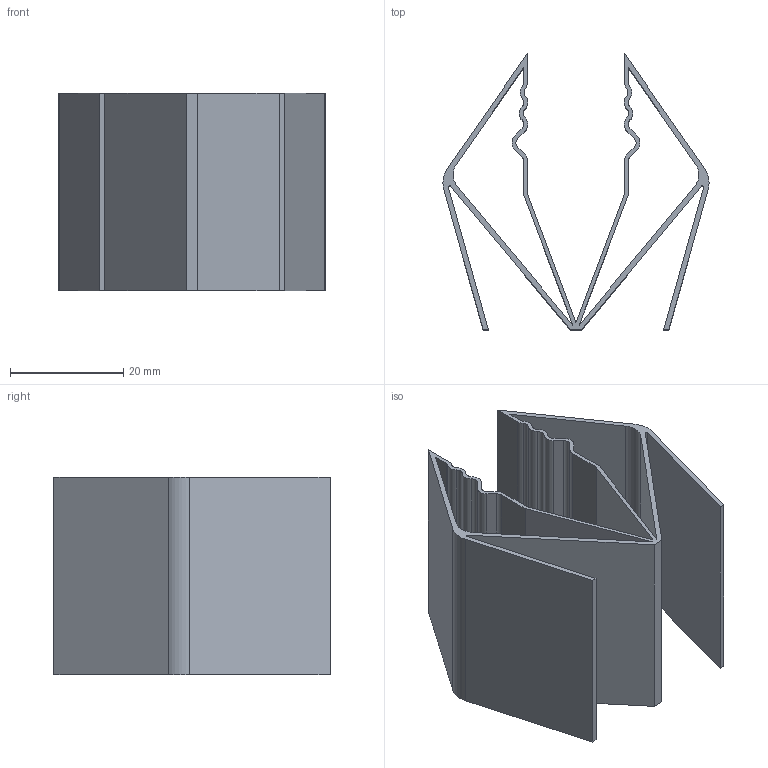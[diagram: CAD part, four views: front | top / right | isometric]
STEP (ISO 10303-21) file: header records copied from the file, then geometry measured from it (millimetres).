
FILE_DESCRIPTION(/* description */ ('STEP AP242 Edition 2','CAx-IF Rec.Pracs.---Representation and Presentation of Product Manufacturing Information (PMI)---4.0---2014-10-13','CAx-IF Rec.Pracs.---3D Tessellated Geometry---0.4---2014-09-14','2;1','CAx-IF Rec.Pracs.---User Defined Attributes---1.5---2016-08-15'),/* implementation_level */ '2;1');
FILE_NAME(/* name */ 'Assembly 1 - Gripper',/* time_stamp */ '2026-08-25T12:50:00Z',/* author */ (''),/* organization */ (''),/* preprocessor_version */ 'ST-DEVELOPER v20',/* originating_system */ 'ONSHAPE BY PTC INC, 1.219',/* authorisation */ ' ');
FILE_SCHEMA (('AP242_MANAGED_MODEL_BASED_3D_ENGINEERING_MIM_LF { 1 0 10303 442 3 1 4 }'));
Length unit declared in the file: metre
Products named in the file (1): Gripper
Bounding box: 47.09 x 48.84 x 35 mm (x, y, z)
Volume: 7837.9 mm3; surface area: 19608.7 mm2
Topology: 1 solids, 1 shells, 73 faces, 213 edges, 142 vertices
Faces by surface type: plane 39, cylinder 34
Entity records: 2465 total; most frequent: DIRECTION 429, CARTESIAN_POINT 429, ORIENTED_EDGE 426, EDGE_CURVE 213, LINE 145, VECTOR 145, VERTEX_POINT 142, AXIS2_PLACEMENT_3D 142
